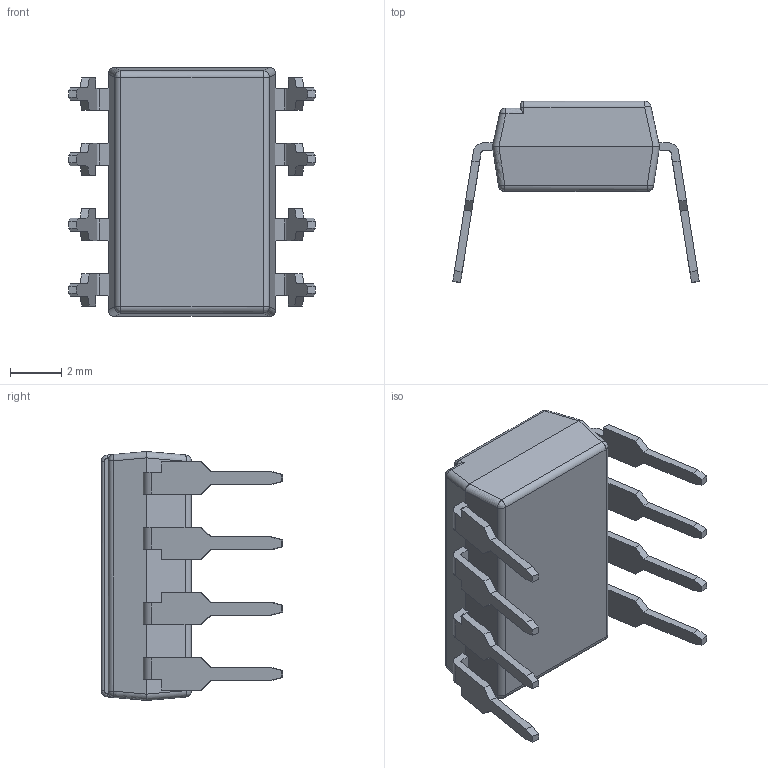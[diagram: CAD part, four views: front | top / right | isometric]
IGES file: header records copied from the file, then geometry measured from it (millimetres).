
Global section: file name: DIP8; native system: Autodesk Inventor 2016; preprocessor: unknown; author: ElvinLai; date: 20181011.145735; units: millimetre
Bounding box: 9.58 x 7.05 x 9.68 mm (x, y, z)
Surface area: 322.9 mm2 (no closed solid volume)
Topology: 0 solids, 0 shells, 179 faces, 1037 edges, 1035 vertices
Faces by surface type: bspline 132, revolution 47
